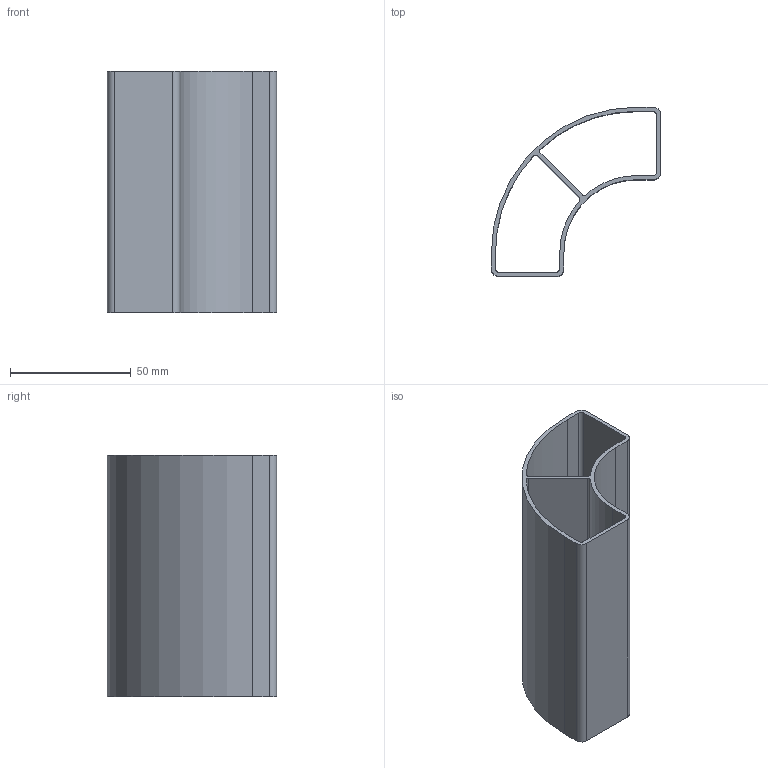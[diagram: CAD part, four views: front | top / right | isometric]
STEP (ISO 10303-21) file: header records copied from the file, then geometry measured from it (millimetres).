
FILE_DESCRIPTION (( 'STEP AP203' ), '1' );
FILE_NAME ('013.030.020.STEP', '2021-03-22T07:20:52', ( '' ), ( '' ), 'SwSTEP 2.0', 'SolidWorks 2018', '' );
FILE_SCHEMA (( 'CONFIG_CONTROL_DESIGN' ));
Length unit declared in the file: millimetre
Products named in the file (1): 013.030.020
Bounding box: 70 x 70 x 100 mm (x, y, z)
Volume: 43904.1 mm3; surface area: 51832.4 mm2
Topology: 1 solids, 1 shells, 35 faces, 99 edges, 66 vertices
Faces by surface type: cylinder 19, plane 16
Entity records: 1236 total; most frequent: DIRECTION 209, CARTESIAN_POINT 201, ORIENTED_EDGE 198, EDGE_CURVE 99, AXIS2_PLACEMENT_3D 74, VERTEX_POINT 66, LINE 61, VECTOR 61
